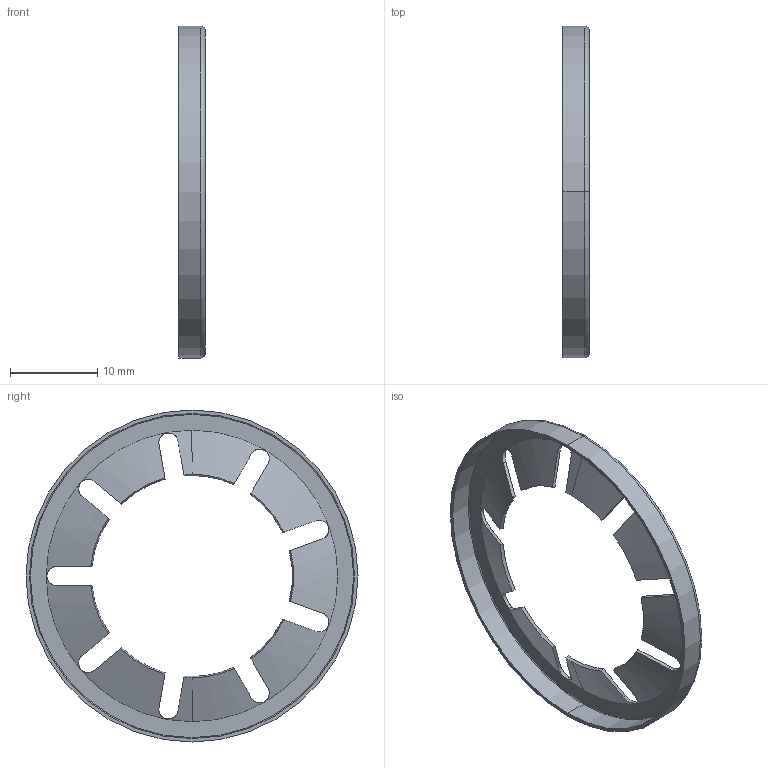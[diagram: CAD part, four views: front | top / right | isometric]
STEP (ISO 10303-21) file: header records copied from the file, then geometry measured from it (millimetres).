
FILE_DESCRIPTION (( 'STEP AP214' ), '1' );
FILE_NAME ('509.3-38-B.step', '2023-07-06T13:23:41', ( '' ), ( '' ), 'SwSTEP 2.0', 'SolidWorks 2022', '' );
FILE_SCHEMA (( 'AUTOMOTIVE_DESIGN' ));
Length unit declared in the file: millimetre
Products named in the file (1): 509.3-38-B
Bounding box: 3 x 38 x 38 mm (x, y, z)
Volume: 374.5 mm3; surface area: 1985.2 mm2
Topology: 1 solids, 1 shells, 64 faces, 169 edges, 108 vertices
Faces by surface type: cone 22, plane 21, cylinder 17, torus 4
Entity records: 2314 total; most frequent: CARTESIAN_POINT 825, ORIENTED_EDGE 338, DIRECTION 260, EDGE_CURVE 169, AXIS2_PLACEMENT_3D 115, VERTEX_POINT 108, B_SPLINE_CURVE_WITH_KNOTS 89, EDGE_LOOP 67
